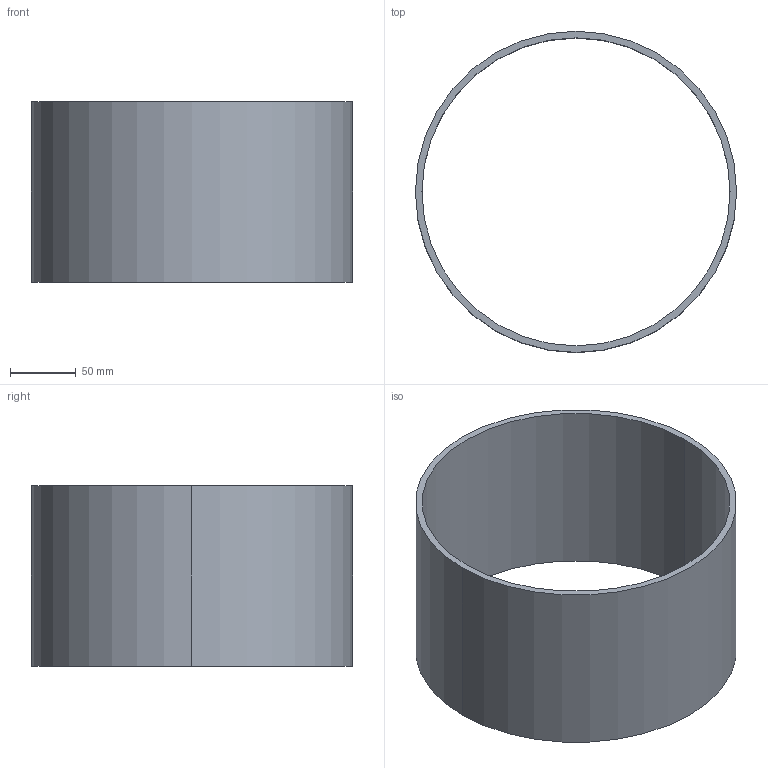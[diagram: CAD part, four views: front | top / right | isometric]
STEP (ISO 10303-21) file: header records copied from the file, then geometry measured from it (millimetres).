
FILE_DESCRIPTION(('CATIA V5 STEP Exchange'),'2;1');
FILE_NAME('C:\_Andres\UNIVERSIDAD\IQS\ASIGNATURAS\DAO\EXF\EXF-15161c\1original\Sala_García_Ej07-tabla_v22.stp','2016-03-04T21:16:35+00:00',('none'),('none'),'CATIA Version 5 Release 20 SP 1 (IN-10)','CATIA V5 STEP AP203','none');
FILE_SCHEMA(('CONFIG_CONTROL_DESIGN'));
Length unit declared in the file: millimetre
Products named in the file (1): Sala_García_Ej07-tabla_v22
Bounding box: 244 x 244 x 137 mm (x, y, z)
Volume: 514325.8 mm3; surface area: 213238.7 mm2
Topology: 1 solids, 1 shells, 6 faces, 13 edges, 10 vertices
Faces by surface type: cylinder 4, plane 2
Entity records: 208 total; most frequent: CARTESIAN_POINT 29, ORIENTED_EDGE 24, DIRECTION 23, AXIS2_PLACEMENT_3D 14, EDGE_CURVE 12, CIRCLE 8, EDGE_LOOP 8, VERTEX_POINT 8
